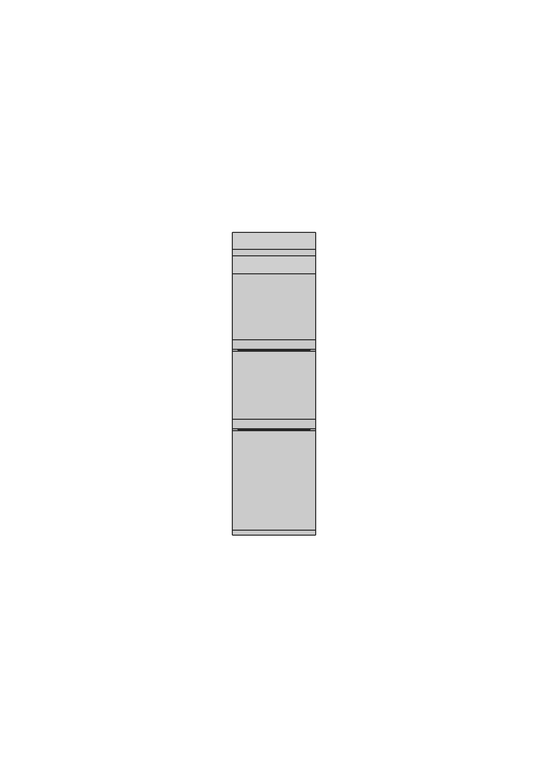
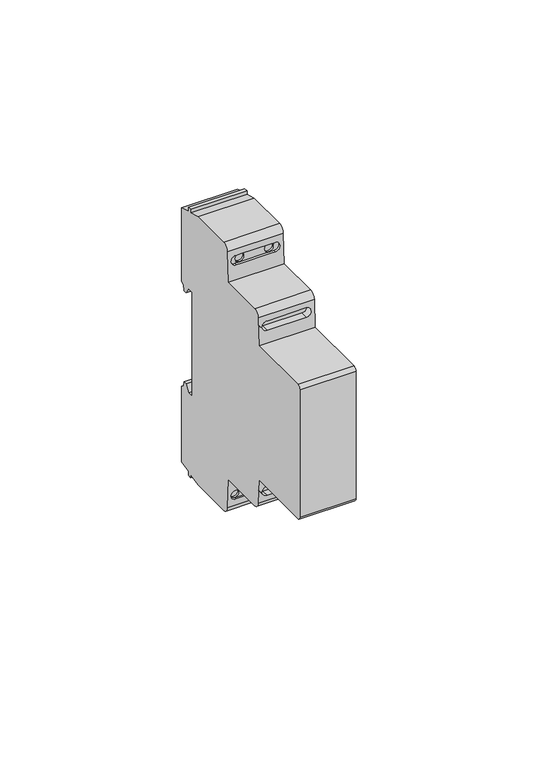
"""IFC4 building model written with IfcOpenShell, lengths in millimetres: proxy geometry, TDM_РЕЛЕ ИМПУЛЬСНОЕ (ОСВЕЩЕНИЕ) РИО : РИО-1 10А."""

from ifc_helpers import new_model, si_unit, frame, origin, place, context, project, spatial, polyline, circle_curve, ellipse_curve, outline, extrude, source, transform, mapped, element, save
from ifc_brep_helpers import plane_surface, cylinder_surface, revolved_surface, advanced_brep


def electrical_equipment_917988b0(model_context):
    return source(origin(), model_context, "Body", "SolidModel", [
        extrude(outline(polyline([(14.1138713, 30.3732323), (14.1138713, 43.7501081), (16.6821204, 43.7501081), (16.6821204, -44.0625), (14.1138713, -44.0625), (14.1138713, 23.4004542), (-1.4600795, 23.4004542), (-1.4600795, 30.3732323), (14.1138713, 30.3732323)])), frame((-7.75, 0.0, 0.0), z_axis=(1.0, 0.0, 0.0), x_axis=(0.0, 1.0, 0.0)), (0.0, 0.0, 1.0), 15.5),
        advanced_brep(
        [(8.9, 31.7632568, 17.7057143), (8.9, 33.7632568, 17.7057143), (8.9, 35.0790621, 15.4266726), (8.9, 36.2042493, 15.4266726), (8.9, 36.5256071, 17.2491835), (8.9, 37.5, 17.8117495), (8.9, 37.5, 42.6031417), (8.9, 33.7858621, 43.5983419), (8.9, 33.7858621, 45.0), (8.9, 32.5, 45.0), (8.9, 32.5, 43.9428876), (8.9, 28.5548029, 45.0), (8.9, 14.5, 45.0), (8.9, 12.5, 43.0), (8.9, 11.9790691, 33.0600462), (8.9, -2.6020709, 33.0600462), (8.9, -4.5993299, 31.1647181), (8.9, -5.0796325, 22.0), (8.9, -26.3777313, 22.0), (8.9, -27.5, 20.8777313), (8.9, -27.5, -21.8875602), (8.9, -26.3875602, -23.0), (8.9, -5.0272247, -23.0), (8.9, -4.5993299, -31.1647181), (8.9, -2.6020709, -33.0600462), (8.9, 11.9790691, -33.0600462), (8.9, 12.5, -43.0), (8.9, 14.5, -45.0), (8.9, 28.5548029, -45.0), (8.9, 32.5, -43.9428876), (8.9, 32.5, -45.0), (8.9, 33.7858621, -45.0), (8.9, 33.7858621, -43.5983419), (8.9, 37.5, -42.6031417), (8.9, 37.5, -17.4003208), (8.9, 36.5256071, -16.8377548), (8.9, 36.2042493, -15.0152439), (8.9, 35.0790621, -15.0152439), (8.9, 33.7632568, -17.2942857), (8.9, 31.7632568, -17.2942857), (-8.9, 31.7632568, 17.7057143), (-8.9, 31.7632568, -17.2942857), (-8.9, 33.7632568, -17.2942857), (-8.9, 35.0790621, -15.0152439), (-8.9, 36.2042493, -15.0152439), (-8.9, 36.5256071, -16.8377548), (-8.9, 37.5, -17.4003208), (-8.9, 37.5, -42.6031417), (-8.9, 33.7858621, -43.5983419), (-8.9, 33.7858621, -45.0), (-8.9, 32.5, -45.0), (-8.9, 32.5, -43.9428876), (-8.9, 28.5548029, -45.0), (-8.9, 14.5, -45.0), (-8.9, 12.5, -43.0), (-8.9, 11.9790691, -33.0600462), (-8.9, -2.6020709, -33.0600462), (-8.9, -4.5993299, -31.1647181), (-8.9, -5.0272247, -23.0), (-8.9, -26.3875602, -23.0), (-8.9, -27.5, -21.8875602), (-8.9, -27.5, 20.8777313), (-8.9, -26.3777313, 22.0), (-8.9, -5.0796325, 22.0), (-8.9, -4.5993299, 31.1647181), (-8.9, -2.6020709, 33.0600462), (-8.9, 11.9790691, 33.0600462), (-8.9, 12.5, 43.0), (-8.9, 14.5, 45.0), (-8.9, 28.5548029, 45.0), (-8.9, 32.5, 43.9428876), (-8.9, 32.5, 45.0), (-8.9, 33.7858621, 45.0), (-8.9, 33.7858621, 43.5983419), (-8.9, 37.5, 42.6031417), (-8.9, 37.5, 17.8117495), (-8.9, 36.5256071, 17.2491835), (-8.9, 36.2042493, 15.4266726), (-8.9, 35.0790621, 15.4266726), (-8.9, 33.7632568, 17.7057143), (6.25, 13.0378948, 37.8135116), (6.25, 13.0378948, 40.8135116), (4.6875, 13.0378948, 40.8135116), (6.1875, 13.0378948, 39.3135116), (4.6875, 13.0378948, 37.8135116), (-6.25, 13.0378948, 40.8135116), (-6.25, 13.0378948, 37.8135116), (-4.6875, 13.0378948, 37.8135116), (-6.1875, 13.0378948, 39.3135116), (-4.6875, 13.0378948, 40.8135116), (-3.1875, 13.0378948, 39.3135116), (3.1875, 13.0378948, 39.3135116), (6.25, 13.0378948, -37.8135116), (-6.25, 13.0378948, -37.8135116), (-4.75, 13.0378948, -39.3135116), (-6.25, 13.0378948, -40.8135116), (6.25, 13.0378948, -40.8135116), (4.75, 13.0378948, -39.3135116), (6.25, 12.385411, 40.8135116), (6.25, 12.2281877, 37.8135116), (4.6875, 12.2281877, 37.8135116), (-4.6875, 12.2281877, 37.8135116), (-6.25, 12.2281877, 37.8135116), (-6.25, 12.385411, 40.8135116), (-4.6875, 12.385411, 40.8135116), (4.6875, 12.385411, 40.8135116), (6.25, -4.7022977, 29.1999754), (6.25, -4.8595211, 26.1999754), (-6.25, -4.8595211, 26.1999754), (-6.25, -4.7022977, 29.1999754), (-6.25, -4.8595211, -26.1999754), (6.25, -4.8595211, -26.1999754), (6.25, -4.7022977, -29.1999754), (-6.25, -4.7022977, -29.1999754), (-6.25, 12.2281877, -37.8135116), (6.25, 12.2281877, -37.8135116), (7.75, 12.3067993, -39.3135116), (6.25, 12.385411, -40.8135116), (-6.25, 12.385411, -40.8135116), (-7.75, 12.3067993, -39.3135116), (-7.75, 13.0378948, -39.3135116), (7.75, 13.0378948, -39.3135116), (-4.75, 15.2465164, -39.3135116), (-7.75, 15.2465164, -39.3135116), (4.75, 15.2465164, -39.3135116), (7.75, 15.2465164, -39.3135116), (-3.1875, 15.2465164, 39.3135116), (-6.1875, 15.2465164, 39.3135116), (3.1875, 15.2465164, 39.3135116), (6.1875, 15.2465164, 39.3135116), (6.25, -2.4542234, -26.1999754), (-6.25, -2.4542234, -26.1999754), (-6.25, -2.4542234, -29.1999754), (6.25, -2.4542234, -29.1999754), (6.25, -2.4542234, 26.1999754), (6.25, -2.4542234, 29.1999754), (-6.25, -2.4542234, 29.1999754), (-6.25, -2.4542234, 26.1999754)],
        [
            (0, 1),
            (1, 2),
            (2, 3),
            (3, 4),
            (4, 5),
            (5, 6),
            (6, 7),
            (7, 8),
            (8, 9),
            (9, 10),
            (10, 11),
            (11, 12),
            (12, 13, circle_curve(frame((8.9, 14.5, 43.0), z_axis=(1.0, 0.0, 0.0), x_axis=(0.0, -1.0, 0.0)), 2.0)),
            (13, 14),
            (14, 15),
            (15, 16, circle_curve(frame((8.9, -2.6020709, 31.0600462), z_axis=(1.0, 0.0, 0.0), x_axis=(0.0, -1.0, 0.0)), 2.0)),
            (16, 17),
            (17, 18),
            (18, 19, circle_curve(frame((8.9, -26.3777313, 20.8777313), z_axis=(1.0, 0.0, 0.0), x_axis=(0.0, -1.0, 0.0)), 1.1222687)),
            (19, 20),
            (20, 21, circle_curve(frame((8.9, -26.3875602, -21.8875602), z_axis=(1.0, 0.0, 0.0), x_axis=(0.0, -1.0, 0.0)), 1.1124398)),
            (21, 22),
            (22, 23),
            (23, 24, circle_curve(frame((8.9, -2.6020709, -31.0600462), z_axis=(1.0, 0.0, 0.0), x_axis=(0.0, -1.0, 0.0)), 2.0)),
            (24, 25),
            (25, 26),
            (26, 27, circle_curve(frame((8.9, 14.5, -43.0), z_axis=(1.0, 0.0, 0.0), x_axis=(0.0, -1.0, 0.0)), 2.0)),
            (27, 28),
            (28, 29),
            (29, 30),
            (30, 31),
            (31, 32),
            (32, 33),
            (33, 34),
            (34, 35),
            (35, 36),
            (36, 37),
            (37, 38),
            (38, 39),
            (39, 0),
            (40, 41),
            (41, 42),
            (42, 43),
            (43, 44),
            (44, 45),
            (45, 46),
            (46, 47),
            (47, 48),
            (48, 49),
            (49, 50),
            (50, 51),
            (51, 52),
            (52, 53),
            (53, 54, circle_curve(frame((-8.9, 14.5, -43.0), z_axis=(-1.0, 0.0, 0.0), x_axis=(0.0, -1.0, 0.0)), 2.0)),
            (54, 55),
            (55, 56),
            (56, 57, circle_curve(frame((-8.9, -2.6020709, -31.0600462), z_axis=(-1.0, 0.0, 0.0), x_axis=(0.0, -1.0, 0.0)), 2.0)),
            (57, 58),
            (58, 59),
            (59, 60, circle_curve(frame((-8.9, -26.3875602, -21.8875602), z_axis=(-1.0, 0.0, 0.0), x_axis=(0.0, -1.0, 0.0)), 1.1124398)),
            (60, 61),
            (61, 62, circle_curve(frame((-8.9, -26.3777313, 20.8777313), z_axis=(-1.0, 0.0, 0.0), x_axis=(0.0, -1.0, 0.0)), 1.1222687)),
            (62, 63),
            (63, 64),
            (64, 65, circle_curve(frame((-8.9, -2.6020709, 31.0600462), z_axis=(-1.0, 0.0, 0.0), x_axis=(0.0, -1.0, 0.0)), 2.0)),
            (65, 66),
            (66, 67),
            (67, 68, circle_curve(frame((-8.9, 14.5, 43.0), z_axis=(-1.0, 0.0, 0.0), x_axis=(0.0, -1.0, 0.0)), 2.0)),
            (68, 69),
            (69, 70),
            (70, 71),
            (71, 72),
            (72, 73),
            (73, 74),
            (74, 75),
            (75, 76),
            (76, 77),
            (77, 78),
            (78, 79),
            (79, 40),
            (80, 81, circle_curve(frame((6.25, 13.0378948, 39.3135116), z_axis=(0.0, -1.0, 0.0), x_axis=(1.0, 0.0, 0.0)), 1.5)),
            (81, 82),
            (82, 83, circle_curve(frame((4.6875, 13.0378948, 39.3135116), z_axis=(0.0, 1.0, 0.0), x_axis=(1.0, 0.0, 0.0)), 1.5)),
            (83, 84, circle_curve(frame((4.6875, 13.0378948, 39.3135116), z_axis=(0.0, 1.0, 0.0), x_axis=(1.0, 0.0, 0.0)), 1.5)),
            (84, 80),
            (85, 86, circle_curve(frame((-6.25, 13.0378948, 39.3135116), z_axis=(0.0, -1.0, 0.0), x_axis=(-1.0, 0.0, 0.0)), 1.5)),
            (86, 87),
            (87, 88, circle_curve(frame((-4.6875, 13.0378948, 39.3135116), z_axis=(0.0, 1.0, 0.0), x_axis=(-1.0, 0.0, 0.0)), 1.5)),
            (88, 89, circle_curve(frame((-4.6875, 13.0378948, 39.3135116), z_axis=(0.0, 1.0, 0.0), x_axis=(-1.0, 0.0, 0.0)), 1.5)),
            (89, 85),
            (82, 89),
            (89, 90, circle_curve(frame((-4.6875, 13.0378948, 39.3135116), z_axis=(0.0, 1.0, 0.0), x_axis=(-1.0, 0.0, 0.0)), 1.5)),
            (90, 87, circle_curve(frame((-4.6875, 13.0378948, 39.3135116), z_axis=(0.0, 1.0, 0.0), x_axis=(-1.0, 0.0, 0.0)), 1.5)),
            (87, 84),
            (84, 91, circle_curve(frame((4.6875, 13.0378948, 39.3135116), z_axis=(0.0, 1.0, 0.0), x_axis=(1.0, 0.0, 0.0)), 1.5)),
            (91, 82, circle_curve(frame((4.6875, 13.0378948, 39.3135116), z_axis=(0.0, 1.0, 0.0), x_axis=(1.0, 0.0, 0.0)), 1.5)),
            (92, 93),
            (93, 94, circle_curve(frame((-6.25, 13.0378948, -39.3135116), z_axis=(0.0, 1.0, 0.0), x_axis=(-1.0, 0.0, 0.0)), 1.5)),
            (94, 95, circle_curve(frame((-6.25, 13.0378948, -39.3135116), z_axis=(0.0, 1.0, 0.0), x_axis=(-1.0, 0.0, 0.0)), 1.5)),
            (95, 96),
            (96, 97, circle_curve(frame((6.25, 13.0378948, -39.3135116), z_axis=(0.0, 1.0, 0.0), x_axis=(1.0, 0.0, 0.0)), 1.5)),
            (97, 92, circle_curve(frame((6.25, 13.0378948, -39.3135116), z_axis=(0.0, 1.0, 0.0), x_axis=(1.0, 0.0, 0.0)), 1.5)),
            (0, 40),
            (79, 1),
            (78, 2),
            (77, 3),
            (76, 4),
            (75, 5),
            (74, 6),
            (11, 69),
            (68, 12),
            (67, 13),
            (66, 14),
            (98, 99, ellipse_curve(frame((6.25, 12.3067993, 39.3135116), z_axis=(0.0, 0.9986295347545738, -0.052335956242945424), x_axis=(0.0, -0.052335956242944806, -0.9986295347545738)), 1.5020585, 1.5)),
            (99, 100),
            (100, 101),
            (101, 102),
            (102, 103, ellipse_curve(frame((-6.25, 12.3067993, 39.3135116), z_axis=(0.0, 0.9986295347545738, -0.052335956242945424), x_axis=(0.0, -0.052335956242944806, -0.9986295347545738)), 1.5020585, 1.5)),
            (103, 104),
            (104, 105),
            (105, 98),
            (65, 15),
            (64, 16),
            (63, 17),
            (106, 107, ellipse_curve(frame((6.25, -4.7809094, 27.6999754), z_axis=(0.0, 0.9986295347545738, -0.052335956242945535), x_axis=(0.0, -0.0523359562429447, -0.9986295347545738)), 1.5020585, 1.5)),
            (107, 108),
            (108, 109, ellipse_curve(frame((-6.25, -4.7809094, 27.6999754), z_axis=(0.0, 0.9986295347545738, -0.052335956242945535), x_axis=(0.0, -0.0523359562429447, -0.9986295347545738)), 1.5020585, 1.5)),
            (109, 106),
            (62, 18),
            (61, 19),
            (60, 20),
            (21, 59),
            (58, 22),
            (57, 23),
            (110, 111),
            (111, 112, ellipse_curve(frame((6.25, -4.7809094, -27.6999754), z_axis=(0.0, 0.9986295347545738, 0.05233595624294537), x_axis=(0.0, -0.05233595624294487, 0.9986295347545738)), 1.5020585, 1.5)),
            (112, 113),
            (113, 110, ellipse_curve(frame((-6.25, -4.7809094, -27.6999754), z_axis=(0.0, 0.9986295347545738, 0.05233595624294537), x_axis=(0.0, -0.05233595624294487, 0.9986295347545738)), 1.5020585, 1.5)),
            (56, 24),
            (55, 25),
            (54, 26),
            (114, 115),
            (115, 116, ellipse_curve(frame((6.25, 12.3067993, -39.3135116), z_axis=(0.0, 0.9986295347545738, 0.05233595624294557), x_axis=(0.0, -0.05233595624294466, 0.9986295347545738)), 1.5020585, 1.5)),
            (116, 117, ellipse_curve(frame((6.25, 12.3067993, -39.3135116), z_axis=(0.0, 0.9986295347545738, 0.05233595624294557), x_axis=(0.0, -0.05233595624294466, 0.9986295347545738)), 1.5020585, 1.5)),
            (117, 118),
            (118, 119, ellipse_curve(frame((-6.25, 12.3067993, -39.3135116), z_axis=(0.0, 0.9986295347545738, 0.05233595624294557), x_axis=(0.0, -0.05233595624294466, 0.9986295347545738)), 1.5020585, 1.5)),
            (119, 114, ellipse_curve(frame((-6.25, 12.3067993, -39.3135116), z_axis=(0.0, 0.9986295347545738, 0.05233595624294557), x_axis=(0.0, -0.05233595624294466, 0.9986295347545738)), 1.5020585, 1.5)),
            (53, 27),
            (52, 28),
            (30, 50),
            (49, 31),
            (48, 32),
            (51, 29),
            (33, 47),
            (46, 34),
            (45, 35),
            (44, 36),
            (43, 37),
            (42, 38),
            (41, 39),
            (92, 115),
            (114, 93),
            (118, 95),
            (95, 120, circle_curve(frame((-6.25, 13.0378948, -39.3135116), z_axis=(0.0, 1.0, 0.0), x_axis=(-1.0, 0.0, 0.0)), 1.5)),
            (120, 93, circle_curve(frame((-6.25, 13.0378948, -39.3135116), z_axis=(0.0, 1.0, 0.0), x_axis=(-1.0, 0.0, 0.0)), 1.5)),
            (117, 96),
            (92, 121, circle_curve(frame((6.25, 13.0378948, -39.3135116), z_axis=(0.0, 1.0, 0.0), x_axis=(1.0, 0.0, 0.0)), 1.5)),
            (121, 96, circle_curve(frame((6.25, 13.0378948, -39.3135116), z_axis=(0.0, 1.0, 0.0), x_axis=(1.0, 0.0, 0.0)), 1.5)),
            (80, 99),
            (98, 81),
            (103, 85),
            (102, 86),
            (122, 123, circle_curve(frame((-6.25, 15.2465164, -39.3135116), z_axis=(0.0, -1.0, 0.0), x_axis=(-1.0, 0.0, 0.0)), 1.5)),
            (123, 122, circle_curve(frame((-6.25, 15.2465164, -39.3135116), z_axis=(0.0, -1.0, 0.0), x_axis=(-1.0, 0.0, 0.0)), 1.5)),
            (124, 125, circle_curve(frame((6.25, 15.2465164, -39.3135116), z_axis=(0.0, -1.0, 0.0), x_axis=(1.0, 0.0, 0.0)), 1.5)),
            (125, 124, circle_curve(frame((6.25, 15.2465164, -39.3135116), z_axis=(0.0, -1.0, 0.0), x_axis=(1.0, 0.0, 0.0)), 1.5)),
            (126, 127, circle_curve(frame((-4.6875, 15.2465164, 39.3135116), z_axis=(0.0, -1.0, 0.0), x_axis=(-1.0, 0.0, 0.0)), 1.5)),
            (127, 126, circle_curve(frame((-4.6875, 15.2465164, 39.3135116), z_axis=(0.0, -1.0, 0.0), x_axis=(-1.0, 0.0, 0.0)), 1.5)),
            (128, 129, circle_curve(frame((4.6875, 15.2465164, 39.3135116), z_axis=(0.0, -1.0, 0.0), x_axis=(1.0, 0.0, 0.0)), 1.5)),
            (129, 128, circle_curve(frame((4.6875, 15.2465164, 39.3135116), z_axis=(0.0, -1.0, 0.0), x_axis=(1.0, 0.0, 0.0)), 1.5)),
            (122, 94),
            (120, 123),
            (124, 97),
            (121, 125),
            (126, 90),
            (88, 127),
            (128, 91),
            (83, 129),
            (73, 7),
            (72, 8),
            (71, 9),
            (70, 10),
            (130, 131),
            (131, 132, circle_curve(frame((-6.25, -2.4542234, -27.6999754), z_axis=(0.0, -1.0, 0.0), x_axis=(-1.0, 0.0, 0.0)), 1.5)),
            (132, 133),
            (133, 130, circle_curve(frame((6.25, -2.4542234, -27.6999754), z_axis=(0.0, -1.0, 0.0), x_axis=(1.0, 0.0, 0.0)), 1.5)),
            (134, 135, circle_curve(frame((6.25, -2.4542234, 27.6999754), z_axis=(0.0, -1.0, 0.0), x_axis=(1.0, 0.0, 0.0)), 1.5)),
            (135, 136),
            (136, 137, circle_curve(frame((-6.25, -2.4542234, 27.6999754), z_axis=(0.0, -1.0, 0.0), x_axis=(-1.0, 0.0, 0.0)), 1.5)),
            (137, 134),
            (130, 111),
            (110, 131),
            (113, 132),
            (112, 133),
            (134, 107),
            (106, 135),
            (109, 136),
            (108, 137),
        ],
        [
            plane_surface(frame((8.9, 31.7632568, 17.7057143), z_axis=(1.0, 0.0, 0.0), x_axis=(0.0, 1.0, 0.0))),
            plane_surface(frame((-8.9, 31.7632568, 17.7057143), z_axis=(-1.0, 0.0, 0.0), x_axis=(0.0, -1.0, 0.0))),
            plane_surface(frame((-7.75, 13.0378948, -37.8135116), z_axis=(0.0, -1.0, 0.0), x_axis=(1.0, 0.0, 0.0))),
            plane_surface(frame((8.9, 31.7632568, 17.7057143), z_axis=(0.0, 0.0, -1.0), x_axis=(-1.0, 0.0, 0.0))),
            plane_surface(frame((8.9, 33.7632568, 17.7057143), z_axis=(0.0, -0.8660254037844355, -0.5000000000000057), x_axis=(-1.0, 0.0, 0.0))),
            plane_surface(frame((8.9, 35.0790621, 15.4266726), z_axis=(0.0, 0.0, -1.0), x_axis=(-1.0, 0.0, 0.0))),
            plane_surface(frame((8.9, 36.2042493, 15.4266726), z_axis=(0.0, 0.984807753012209, -0.17364817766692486), x_axis=(-1.0, 0.0, 0.0))),
            plane_surface(frame((8.9, 36.5256071, 17.2491835), z_axis=(0.0, 0.5000000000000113, -0.8660254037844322), x_axis=(-1.0, 0.0, 0.0))),
            plane_surface(frame((8.9, 37.5, 17.8117495), z_axis=(0.0, 1.0, 0.0), x_axis=(-1.0, 0.0, 0.0))),
            plane_surface(frame((8.9, 28.5548029, 45.0), z_axis=(0.0, 0.0, 1.0), x_axis=(-1.0, 0.0, 0.0))),
            cylinder_surface(frame((-8.9, 14.5, 43.0), z_axis=(1.0, 0.0, 0.0), x_axis=(0.0, -1.0, 0.0)), 2.0),
            plane_surface(frame((8.9, 12.5, 43.0), z_axis=(0.0, -0.9986295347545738, 0.052335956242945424), x_axis=(-1.0, 0.0, 0.0))),
            plane_surface(frame((8.9, 11.9790691, 33.0600462), z_axis=(0.0, 0.0, 1.0), x_axis=(-1.0, 0.0, 0.0))),
            cylinder_surface(frame((-8.9, -2.6020709, 31.0600462), z_axis=(1.0, 0.0, 0.0), x_axis=(0.0, -1.0, 0.0)), 2.0),
            plane_surface(frame((8.9, -4.5993299, 31.1647181), z_axis=(0.0, -0.9986295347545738, 0.052335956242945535), x_axis=(-1.0, 0.0, 0.0))),
            plane_surface(frame((8.9, -5.0796325, 22.0), z_axis=(0.0, 0.0, 1.0), x_axis=(-1.0, 0.0, 0.0))),
            cylinder_surface(frame((-8.9, -26.3777313, 20.8777313), z_axis=(1.0, 0.0, 0.0), x_axis=(0.0, -1.0, 0.0)), 1.1222687),
            plane_surface(frame((8.9, -27.5, 20.8777313), z_axis=(0.0, -1.0, 0.0), x_axis=(-1.0, 0.0, 0.0))),
            plane_surface(frame((8.9, -26.3875602, -23.0), z_axis=(0.0, 0.0, -1.0), x_axis=(-1.0, 0.0, 0.0))),
            plane_surface(frame((8.9, -5.0272247, -23.0), z_axis=(0.0, -0.9986295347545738, -0.05233595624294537), x_axis=(-1.0, 0.0, 0.0))),
            cylinder_surface(frame((-8.9, -2.6020709, -31.0600462), z_axis=(1.0, 0.0, 0.0), x_axis=(0.0, -1.0, 0.0)), 2.0),
            plane_surface(frame((8.9, -2.6020709, -33.0600462), z_axis=(0.0, 0.0, -1.0), x_axis=(-1.0, 0.0, 0.0))),
            plane_surface(frame((8.9, 11.9790691, -33.0600462), z_axis=(0.0, -0.9986295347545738, -0.05233595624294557), x_axis=(-1.0, 0.0, 0.0))),
            cylinder_surface(frame((-8.9, 14.5, -43.0), z_axis=(1.0, 0.0, 0.0), x_axis=(0.0, -1.0, 0.0)), 2.0),
            plane_surface(frame((8.9, 14.5, -45.0), z_axis=(0.0, 0.0, -1.0), x_axis=(-1.0, 0.0, 0.0))),
            plane_surface(frame((8.9, 32.5, -45.0), z_axis=(0.0, 0.0, -1.0), x_axis=(-1.0, 0.0, 0.0))),
            plane_surface(frame((8.9, 33.7858621, -45.0), z_axis=(0.0, 1.0, 0.0), x_axis=(-1.0, 0.0, 0.0))),
            plane_surface(frame((8.9, 28.5548029, -45.0), z_axis=(0.0, 0.25881904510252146, -0.9659258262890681), x_axis=(-1.0, 0.0, 0.0))),
            plane_surface(frame((8.9, 37.5, -42.6031417), z_axis=(0.0, 1.0, 0.0), x_axis=(-1.0, 0.0, 0.0))),
            plane_surface(frame((8.9, 37.5, -17.4003208), z_axis=(0.0, 0.5000000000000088, 0.8660254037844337), x_axis=(-1.0, 0.0, 0.0))),
            plane_surface(frame((8.9, 36.5256071, -16.8377548), z_axis=(0.0, 0.9848077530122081, 0.17364817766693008), x_axis=(-1.0, 0.0, 0.0))),
            plane_surface(frame((8.9, 36.2042493, -15.0152439), z_axis=(0.0, 0.0, 1.0), x_axis=(-1.0, 0.0, 0.0))),
            plane_surface(frame((8.9, 35.0790621, -15.0152439), z_axis=(0.0, -0.8660254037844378, 0.5000000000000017), x_axis=(-1.0, 0.0, 0.0))),
            plane_surface(frame((8.9, 33.7632568, -17.2942857), z_axis=(0.0, 0.0, 1.0), x_axis=(-1.0, 0.0, 0.0))),
            plane_surface(frame((8.9, 31.7632568, -17.2942857), z_axis=(0.0, 1.0, 0.0), x_axis=(-1.0, 0.0, 0.0))),
            cylinder_surface(frame((-8.9, -26.3875602, -21.8875602), z_axis=(1.0, 0.0, 0.0), x_axis=(0.0, -1.0, 0.0)), 1.1124398),
            plane_surface(frame((6.25, 0.0, -37.8135116), z_axis=(0.0, 0.0, -1.0), x_axis=(0.0, 1.0, 0.0))),
            revolved_surface(polyline([(-7.75, 12.228187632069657, -39.3135116), (-7.75, 13.0378948, -39.3135116)]), (-6.25, 13.0378948, -39.3135116), (0.0, -1.0, 0.0)),
            plane_surface(frame((-6.25, 0.0, -40.8135116), z_axis=(0.0, 0.0, 1.0), x_axis=(0.0, 1.0, 0.0))),
            revolved_surface(polyline([(7.75, 12.228187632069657, -39.3135116), (7.75, 13.0378948, -39.3135116)]), (6.25, 13.0378948, -39.3135116), (0.0, -1.0, 0.0)),
            revolved_surface(polyline([(7.75, 12.228187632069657, 39.3135116), (7.75, 13.0378948, 39.3135116)]), (6.25, 0.0, 39.3135116), (0.0, -1.0, 0.0)),
            plane_surface(frame((6.25, 0.0, 40.8135116), z_axis=(0.0, 0.0, -1.0), x_axis=(0.0, 1.0, 0.0))),
            revolved_surface(polyline([(-7.75, 12.228187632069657, 39.3135116), (-7.75, 13.0378948, 39.3135116)]), (-6.25, 0.0, 39.3135116), (0.0, -1.0, 0.0)),
            plane_surface(frame((-6.25, 0.0, 37.8135116), z_axis=(0.0, 0.0, 1.0), x_axis=(0.0, 1.0, 0.0))),
            plane_surface(frame((-7.75, 15.2465164, -39.3135116), z_axis=(0.0, -1.0, 0.0), x_axis=(0.0, 0.0, 1.0))),
            revolved_surface(polyline([(-7.75, 13.0378948, -39.3135116), (-7.75, 15.2465164, -39.3135116)]), (-6.25, 15.2465164, -39.3135116), (0.0, -1.0, 0.0)),
            revolved_surface(polyline([(7.75, 13.0378948, -39.3135116), (7.75, 15.2465164, -39.3135116)]), (6.25, 0.0, -39.3135116), (0.0, -1.0, 0.0)),
            revolved_surface(polyline([(-6.1875, 13.0378948, 39.3135116), (-6.1875, 15.2465164, 39.3135116)]), (-4.6875, 0.0, 39.3135116), (0.0, -1.0, 0.0)),
            revolved_surface(polyline([(6.1875, 13.0378948, 39.3135116), (6.1875, 15.2465164, 39.3135116)]), (4.6875, 0.0, 39.3135116), (0.0, -1.0, 0.0)),
            plane_surface(frame((8.9, 32.5, -43.9428876), z_axis=(0.0, -1.0, 0.0), x_axis=(-1.0, 0.0, 0.0))),
            plane_surface(frame((8.9, 33.7858621, -43.5983419), z_axis=(0.0, 0.25881904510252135, -0.9659258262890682), x_axis=(-1.0, 0.0, 0.0))),
            plane_surface(frame((8.9, 37.5, 42.6031417), z_axis=(0.0, 0.2588190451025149, 0.96592582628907), x_axis=(-1.0, 0.0, 0.0))),
            plane_surface(frame((8.9, 33.7858621, 43.5983419), z_axis=(0.0, 1.0, 0.0), x_axis=(-1.0, 0.0, 0.0))),
            plane_surface(frame((8.9, 33.7858621, 45.0), z_axis=(0.0, 0.0, 1.0), x_axis=(-1.0, 0.0, 0.0))),
            plane_surface(frame((8.9, 32.5, 45.0), z_axis=(0.0, -1.0, 0.0), x_axis=(-1.0, 0.0, 0.0))),
            plane_surface(frame((8.9, 32.5, 43.9428876), z_axis=(0.0, 0.25881904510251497, 0.9659258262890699), x_axis=(-1.0, 0.0, 0.0))),
            plane_surface(frame((-7.75, -2.4542234, -26.1999754), z_axis=(0.0, -1.0, 0.0), x_axis=(1.0, 0.0, 0.0))),
            plane_surface(frame((6.25, -7.6444842, -26.1999754), z_axis=(0.0, 0.0, -1.0), x_axis=(0.0, 1.0, 0.0))),
            revolved_surface(polyline([(-7.75, -4.8595211, -27.6999754), (-7.75, -2.4542234, -27.6999754)]), (-6.25, -2.4542234, -27.6999754), (0.0, -1.0, 0.0)),
            plane_surface(frame((-6.25, -7.6444842, -29.1999754), z_axis=(0.0, 0.0, 1.0), x_axis=(0.0, 1.0, 0.0))),
            revolved_surface(polyline([(7.75, -4.8595211, -27.6999754), (7.75, -2.4542234, -27.6999754)]), (6.25, -2.4542234, -27.6999754), (0.0, -1.0, 0.0)),
            revolved_surface(polyline([(7.75, -4.8595211, 27.6999754), (7.75, -2.4542234, 27.6999754)]), (6.25, 0.0, 27.6999754), (0.0, -1.0, 0.0)),
            plane_surface(frame((6.25, -7.6444842, 29.1999754), z_axis=(0.0, 0.0, -1.0), x_axis=(0.0, 1.0, 0.0))),
            revolved_surface(polyline([(-7.75, -4.8595211, 27.6999754), (-7.75, -2.4542234, 27.6999754)]), (-6.25, 0.0, 27.6999754), (0.0, -1.0, 0.0)),
            plane_surface(frame((-6.25, -7.6444842, 26.1999754), z_axis=(0.0, 0.0, 1.0), x_axis=(0.0, 1.0, 0.0))),
        ],
        [
            (0, [[1, 2, 3, 4, 5, 6, 7, 8, 9, 10, 11, 12, 13, 14, 15, 16, 17, 18, 19, 20, 21, 22, 23, 24, 25, 26, 27, 28, 29, 30, 31, 32, 33, 34, 35, 36, 37, 38, 39, 40]]),
            (1, [[41, 42, 43, 44, 45, 46, 47, 48, 49, 50, 51, 52, 53, 54, 55, 56, 57, 58, 59, 60, 61, 62, 63, 64, 65, 66, 67, 68, 69, 70, 71, 72, 73, 74, 75, 76, 77, 78, 79, 80]]),
            (2, [[81, 82, 83, 84, 85]]),
            (2, [[86, 87, 88, 89, 90]]),
            (2, [[91, 92, 93, 94, 95, 96]]),
            (2, [[97, 98, 99, 100, 101, 102]]),
            (3, [[-1, 103, -80, 104]]),
            (4, [[-2, -104, -79, 105]]),
            (5, [[-3, -105, -78, 106]]),
            (6, [[-4, -106, -77, 107]]),
            (7, [[-5, -107, -76, 108]]),
            (8, [[-6, -108, -75, 109]]),
            (9, [[-12, 110, -69, 111]]),
            (10, [[-13, -111, -68, 112]]),
            (11, [[-14, -112, -67, 113], [114, 115, 116, 117, 118, 119, 120, 121]]),
            (12, [[-15, -113, -66, 122]]),
            (13, [[-16, -122, -65, 123]]),
            (14, [[-17, -123, -64, 124], [125, 126, 127, 128]]),
            (15, [[-18, -124, -63, 129]]),
            (16, [[-19, -129, -62, 130]]),
            (17, [[-20, -130, -61, 131]]),
            (18, [[-22, 132, -59, 133]]),
            (19, [[-23, -133, -58, 134], [135, 136, 137, 138]]),
            (20, [[-24, -134, -57, 139]]),
            (21, [[-25, -139, -56, 140]]),
            (22, [[-26, -140, -55, 141], [142, 143, 144, 145, 146, 147]]),
            (23, [[-27, -141, -54, 148]]),
            (24, [[-28, -148, -53, 149]]),
            (25, [[-31, 150, -50, 151]]),
            (26, [[-32, -151, -49, 152]]),
            (27, [[-29, -149, -52, 153]]),
            (28, [[-34, 154, -47, 155]]),
            (29, [[-35, -155, -46, 156]]),
            (30, [[-36, -156, -45, 157]]),
            (31, [[-37, -157, -44, 158]]),
            (32, [[-38, -158, -43, 159]]),
            (33, [[-39, -159, -42, 160]]),
            (34, [[-40, -160, -41, -103]]),
            (35, [[-21, -131, -60, -132]]),
            (36, [[-97, 161, -142, 162]]),
            (37, [[-162, -147, -146, 163, 164, 165]]),
            (38, [[-100, -163, -145, 166]]),
            (39, [[-161, 167, 168, -166, -144, -143]]),
            (40, [[-81, 169, -114, 170]]),
            (41, [[-170, -121, -120, -119, 171, -90, -91, -82]]),
            (42, [[-86, -171, -118, 172]]),
            (43, [[-169, -85, -94, -87, -172, -117, -116, -115]]),
            (44, [[173, 174]]),
            (44, [[175, 176]]),
            (44, [[177, 178]]),
            (44, [[179, 180]]),
            (45, [[-173, 181, -98, -165, 182]]),
            (45, [[-174, -182, -164, -99, -181]]),
            (46, [[-175, 183, -101, -168, 184]]),
            (46, [[-176, -184, -167, -102, -183]]),
            (47, [[-177, 185, -92, -89, 186]]),
            (47, [[-178, -186, -88, -93, -185]]),
            (48, [[-179, 187, -95, -84, 188]]),
            (48, [[-180, -188, -83, -96, -187]]),
            (49, [[-30, -153, -51, -150]]),
            (50, [[-33, -152, -48, -154]]),
            (51, [[-7, -109, -74, 189]]),
            (52, [[-8, -189, -73, 190]]),
            (53, [[-9, -190, -72, 191]]),
            (54, [[-10, -191, -71, 192]]),
            (55, [[-11, -192, -70, -110]]),
            (56, [[193, 194, 195, 196]]),
            (56, [[197, 198, 199, 200]]),
            (57, [[-193, 201, -135, 202]]),
            (58, [[-194, -202, -138, 203]]),
            (59, [[-195, -203, -137, 204]]),
            (60, [[-196, -204, -136, -201]]),
            (61, [[-197, 205, -125, 206]]),
            (62, [[-198, -206, -128, 207]]),
            (63, [[-199, -207, -127, 208]]),
            (64, [[-200, -208, -126, -205]]),
        ],
    ),
    ])


if __name__ == "__main__":
    model = new_model("IFC4")
    model_context = context("Model", 3, world=origin())
    ifc_project = project(units=[si_unit("LENGTHUNIT", "METRE", prefix="MILLI")], contexts=[model_context])
    site = spatial("IfcSite", under=ifc_project)
    building = spatial("IfcBuilding", under=site)
    placement = place(None, origin())
    electrical_equipment_shape = electrical_equipment_917988b0(model_context)
    element("IfcBuildingElementProxy", 1, Name="TDM_РЕЛЕ ИМПУЛЬСНОЕ (ОСВЕЩЕНИЕ) РИО : РИО-1 10А", ObjectType="TDM_РЕЛЕ ИМПУЛЬСНОЕ (ОСВЕЩЕНИЕ) РИО : РИО-1 10А", at=placement, inside=building, context=model_context, shape_type="MappedRepresentation", body=[
        mapped(electrical_equipment_shape, transform((0.0, 0.0, 0.0), x_axis=(1.0, 0.0, 0.0), y_axis=(0.0, 1.0, 0.0), z_axis=(0.0, 0.0, 1.0))),
    ])
    save(model, "model.ifc")
